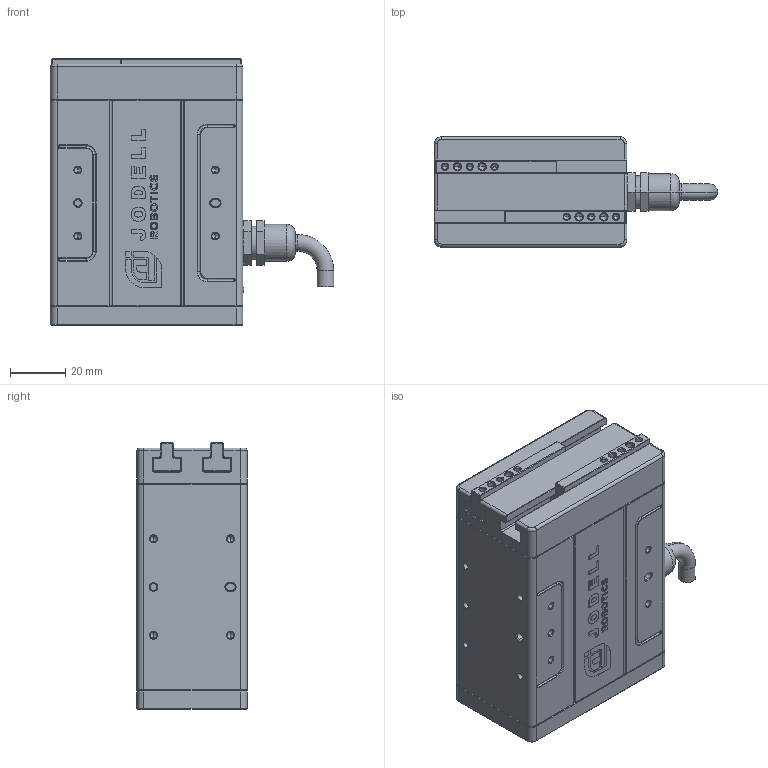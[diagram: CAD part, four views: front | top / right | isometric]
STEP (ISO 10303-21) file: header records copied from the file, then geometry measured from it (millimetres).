
FILE_DESCRIPTION (( 'STEP AP214' ), '1' );
FILE_NAME ('EPG05（市场用）.STEP', '2022-06-28T11:47:38', ( 'User' ), ( 'China' ), 'SwSTEP 2.0', 'SolidWorks 2016', '' );
FILE_SCHEMA (( 'AUTOMOTIVE_DESIGN' ));
Length unit declared in the file: millimetre
Products named in the file (2): EPG05ㄗ庈部蚚ㄘ
Bounding box: 103 x 40 x 97 mm (x, y, z)
Volume: 263981.8 mm3; surface area: 49786.5 mm2
Topology: 11 solids, 11 shells, 1539 faces, 3892 edges, 2401 vertices
Faces by surface type: plane 781, cylinder 296, cone 234, bspline 170, torus 48, sphere 10
Entity records: 63274 total; most frequent: CARTESIAN_POINT 10332, ORIENTED_EDGE 7584, DIRECTION 7054, EDGE_CURVE 3792, VECTOR 2568, LINE 2568, VERTEX_POINT 2393, AXIS2_PLACEMENT_3D 2243
